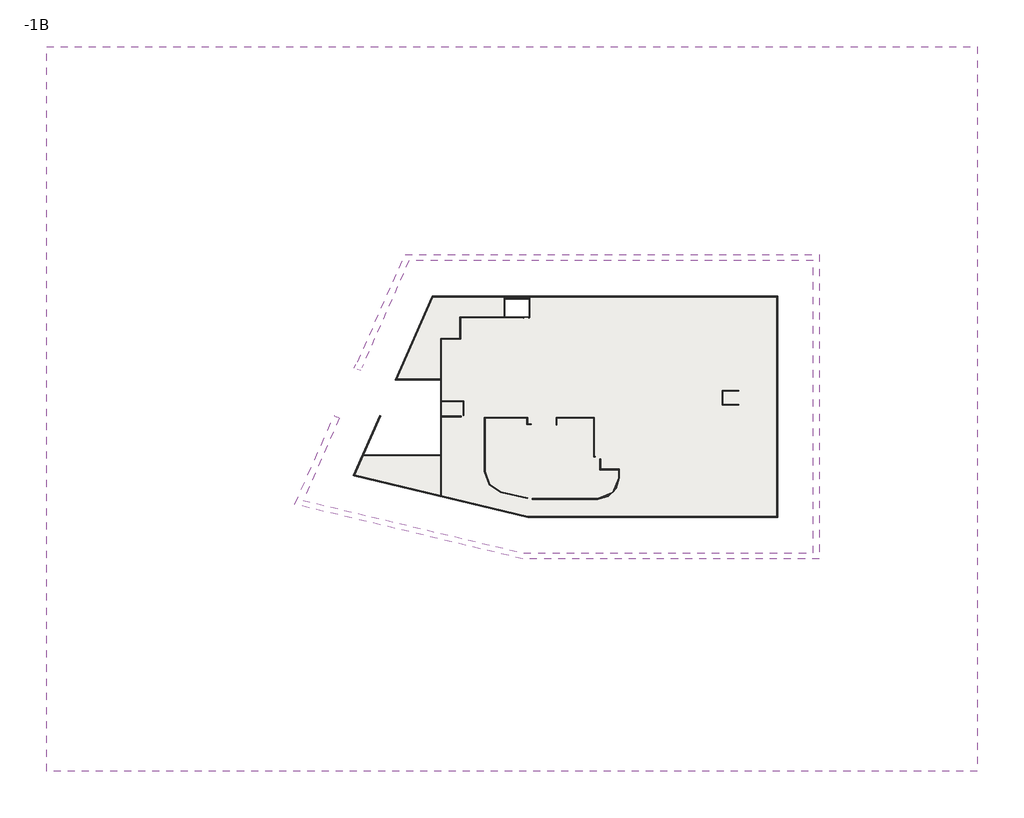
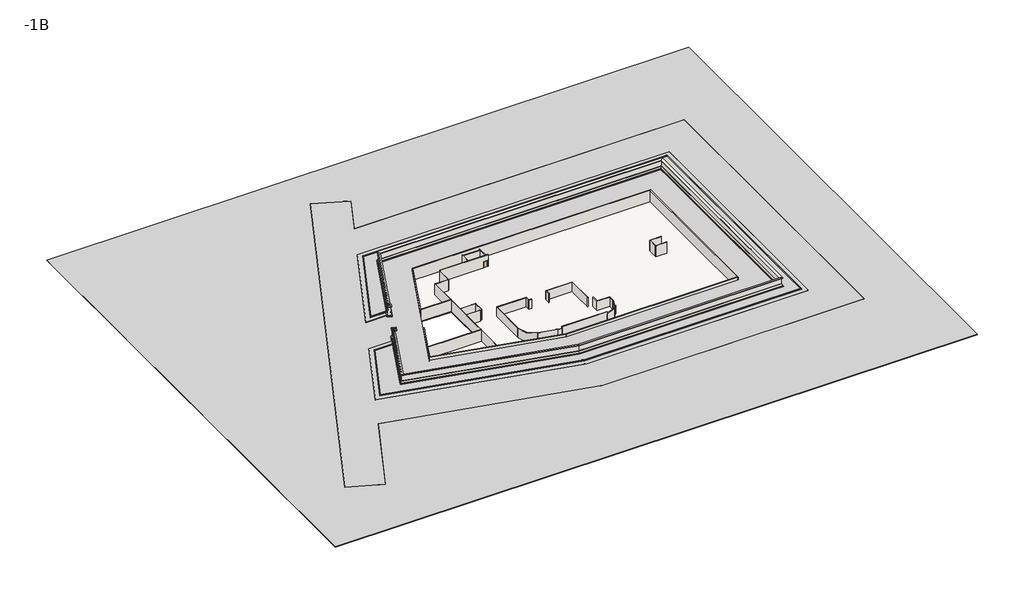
# One storey: 38 walls, 1 door, 1 geographic element, 1 slab.
"""IFC4 building model written with IfcOpenShell, lengths in millimetres."""

from ifc_helpers import new_model, si_unit, point, frame, frame_2d, origin, place, context, project, spatial, polyline, circle_curve, trimmed, segment, composite_curve, outline, extrude, faceted_brep, transform, mapped, element, save
from components import m_single_flush_d_1200x2150_ee7a6381, road_road_67be75eb, boundary_wall_boundary_wall_bb9a8aa2

model = new_model("IFC4")

# Units and contexts
model_context = context("Model", 3, world=origin())
ifc_project = project(units=[si_unit("LENGTHUNIT", "METRE", prefix="MILLI")], contexts=[model_context])

# Site, building, storey
site = spatial("IfcSite", under=ifc_project)
building = spatial("IfcBuilding", under=site)
storey = spatial("IfcBuildingStorey", under=building, Name="-1B", Elevation=-3300.0)

# Door
placement = place(None, origin())
m_single_flush_d_1200x2150_shape = m_single_flush_d_1200x2150_ee7a6381(model_context)
element("IfcDoor", 1, ObjectType="M_Single-Flush : D-1200x2150", at=placement, inside=storey, context=model_context, shape_type="MappedRepresentation", body=[
    mapped(m_single_flush_d_1200x2150_shape, transform((-15617.5865899, 16423.3851347, -3300.0), x_axis=(1.0, 0.0, 0.0), y_axis=(0.0, 1.0, 0.0), z_axis=(0.0, 0.0, 1.0))),
])

# Geographic element
road_road_shape = road_road_67be75eb(model_context)
element("IfcGeographicElement", 2, ObjectType="Road : Road", at=placement, inside=storey, context=model_context, shape_type="MappedRepresentation", body=[
    mapped(road_road_shape, transform((0.0, 0.0, 0.0), x_axis=(1.0, 0.0, 0.0), y_axis=(0.0, 1.0, 0.0), z_axis=(0.0, 0.0, 1.0))),
])

# Slab
element("IfcSlab", 3, ObjectType="basement floor", at=placement, inside=storey, context=model_context, shape_type="SweptSolid", body=[
    extrude(outline(polyline([(-53829.3970214, -15610.6148653), (-35549.5865899, -15610.6148653), (-35549.5865899, 1882.3851347), (-46126.2859605, 1882.3851347), (-37532.7792805, 21397.3851347), (42962.4134101, 21397.3851347), (42962.4134101, -30202.6148653), (-15259.5328249, -30202.6148653), (-55959.4597108, -20447.7756347), (-53829.3970214, -15610.6148653)]), holes=[polyline([(-14914.5865899, 20652.3851347), (-20637.5865899, 20652.3851347), (-20637.5865899, 16494.3851347), (-14914.5865899, 16494.3851347), (-14914.5865899, 20652.3851347)])]), frame((0.0, 0.0, -3575.0), z_axis=(0.0, 0.0, 1.0), x_axis=(1.0, 0.0, 0.0)), (0.0, 0.0, 1.0), 275.0),
])

# Walls
boundary_wall_boundary_wall_shape = boundary_wall_boundary_wall_bb9a8aa2(model_context)
element("IfcWall", 4, ObjectType="Boundary Wall : Boundary Wall", at=placement, inside=storey, context=model_context, shape_type="MappedRepresentation", body=[
    mapped(boundary_wall_boundary_wall_shape, transform((0.0, 0.0, 0.0), x_axis=(1.0, 0.0, 0.0), y_axis=(0.0, 1.0, 0.0), z_axis=(0.0, 0.0, 1.0))),
])
element("IfcWall", 5, ObjectType="Retaining - 230mm Concrete", at=placement, inside=storey, context=model_context, shape_type="Brep", body=[
    faceted_brep([(42962.4134101, 21397.3851347, -3300.0), (-37532.7792805, 21397.3851347, -3300.0), (-37532.7792805, 21397.3851347, 900.0), (42962.4134101, 21397.3851347, 900.0), (42962.4134101, 21167.3851347, -3300.0), (42962.4134101, 21167.3851347, 900.0), (42732.4134101, 21167.3851347, 900.0), (-37382.7482818, 21167.3851347, 900.0), (-37634.0606813, 21167.3851347, 900.0), (-37634.0606813, 21167.3851347, -3300.0), (-37382.7482818, 21167.3851347, -3300.0), (-20782.5865899, 21167.3851347, -3300.0), (-20640.5865899, 21167.3851347, -3300.0), (-14917.5865899, 21167.3851347, -3300.0), (-14775.5865899, 21167.3851347, -3300.0), (42732.4134101, 21167.3851347, -3300.0)], [[[0, 1, 2, 3]], [[4, 5, 6, 7, 8, 9, 10, 11, 12, 13, 14, 15]], [[1, 0, 4, 15, 14, 13, 12, 11, 10, 9]], [[3, 2, 8, 7, 6, 5]], [[0, 3, 5, 4]], [[2, 1, 9, 8]]]),
])
element("IfcWall", 6, ObjectType="Retaining - 230mm Concrete", at=placement, inside=storey, context=model_context, shape_type="Brep", body=[
    faceted_brep([(42962.4134101, -30202.6148653, -3300.0), (42962.4134101, 21167.3851347, -3300.0), (42962.4134101, 21167.3851347, 900.0), (42962.4134101, -30202.6148653, 900.0), (42732.4134101, -30202.6148653, -3300.0), (42732.4134101, -30202.6148653, 900.0), (42732.4134101, -29972.6148653, 900.0), (42732.4134101, 21167.3851347, 900.0), (42732.4134101, 21167.3851347, -3300.0), (42732.4134101, -29972.6148653, -3300.0)], [[[0, 1, 2, 3]], [[4, 5, 6, 7, 8, 9]], [[1, 0, 4, 9, 8]], [[3, 2, 7, 6, 5]], [[0, 3, 5, 4]], [[2, 1, 8, 7]]]),
])
element("IfcWall", 7, ObjectType="Retaining - 230mm Concrete", at=placement, inside=storey, context=model_context, shape_type="SweptSolid", body=[
    extrude(outline(polyline([(42732.4134101, -30202.6148653), (-15259.5328249, -30202.6148653), (-15232.3907639, -29972.6148653), (42732.4134101, -29972.6148653), (42732.4134101, -30202.6148653)])), frame((0.0, 0.0, -3300.0), z_axis=(0.0, 0.0, 1.0), x_axis=(1.0, 0.0, 0.0)), (0.0, 0.0, 1.0), 4200.0),
])
element("IfcWall", 8, ObjectType="Retaining - 230mm Concrete", at=placement, inside=storey, context=model_context, shape_type="Brep", body=[
    faceted_brep([(-37634.0606813, 21167.3851347, -3300.0), (-46126.2859605, 1882.3851347, -3300.0), (-46126.2859605, 1882.3851347, 900.0), (-37634.0606813, 21167.3851347, 900.0), (-37382.7482818, 21167.3851347, -3300.0), (-37382.7482818, 21167.3851347, 900.0), (-45812.4433048, 2024.3851347, 900.0), (-45874.973561, 1882.3851347, 900.0), (-45874.973561, 1882.3851347, -3300.0), (-45812.4433048, 2024.3851347, -3300.0)], [[[0, 1, 2, 3]], [[4, 5, 6, 7, 8, 9]], [[1, 0, 4, 9, 8]], [[3, 2, 7, 6, 5]], [[2, 1, 8, 7]], [[0, 3, 5, 4]]]),
])
element("IfcWall", 9, ObjectType="Retaining - 230mm Concrete", at=placement, inside=storey, context=model_context, shape_type="Brep", body=[
    faceted_brep([(-55737.3714957, -20514.1974958, -3300.0), (-15259.5328249, -30202.6148653, -3300.0), (-15259.5328249, -30202.6148653, 900.0), (-55737.3714957, -20514.1974958, 900.0), (-55643.2141859, -20300.2376728, -3300.0), (-55643.2141859, -20300.2376728, 900.0), (-15232.3907639, -29972.6148653, 900.0), (-15232.3907639, -29972.6148653, -3300.0), (-35407.5865899, -25143.658476, -3300.0), (-35549.5865899, -25109.6706122, -3300.0)], [[[0, 1, 2, 3]], [[4, 5, 6, 7, 8, 9]], [[1, 0, 4, 9, 8, 7]], [[3, 2, 6, 5]], [[2, 1, 7, 6]], [[0, 3, 5, 4]]]),
])
element("IfcWall", 10, ObjectType="Retaining - 230mm Concrete", at=placement, inside=storey, context=model_context, shape_type="Brep", body=[
    faceted_brep([(-49786.7669683, -6421.2351655, -3300.0), (-55964.7115703, -20459.7833867, -3300.0), (-55964.7115703, -20459.7833867, 900.0), (-49786.7669683, -6421.2351655, 900.0), (-49576.2499473, -6513.8774012, -3300.0), (-49576.2499473, -6513.8774012, 900.0), (-53579.4516478, -15610.6148653, 900.0), (-53641.9415947, -15752.6148653, 900.0), (-55643.2141859, -20300.2376728, 900.0), (-55737.3714957, -20514.1974958, 900.0), (-55737.3714957, -20514.1974958, -3300.0), (-55643.2141859, -20300.2376728, -3300.0), (-53641.9415947, -15752.6148653, -3300.0), (-53579.4516478, -15610.6148653, -3300.0)], [[[0, 1, 2, 3]], [[4, 5, 6, 7, 8, 9, 10, 11, 12, 13]], [[1, 0, 4, 13, 12, 11, 10]], [[3, 2, 9, 8, 7, 6, 5]], [[0, 3, 5, 4]], [[2, 1, 10, 9]]]),
])
element("IfcWall", 11, ObjectType="wall-115", at=placement, inside=storey, context=model_context, shape_type="Brep", body=[
    faceted_brep([(-31064.5865899, 16494.3851347, -3300.0), (-31064.5865899, 11524.3851347, -3300.0), (-31064.5865899, 11382.3851347, -3300.0), (-31064.5865899, 11382.3851347, 625.0), (-31064.5865899, 11524.3851347, 625.0), (-31064.5865899, 16494.3851347, 625.0), (-30922.5865899, 16494.3851347, -3300.0), (-30922.5865899, 16494.3851347, 625.0), (-30922.5865899, 11382.3851347, 625.0), (-30922.5865899, 11382.3851347, -3300.0), (-30922.5865899, 16352.3851347, -3300.0)], [[[0, 1, 2, 3, 4, 5]], [[6, 7, 8, 9, 10]], [[2, 1, 0, 6, 10, 9]], [[0, 5, 7, 6]], [[3, 2, 9, 8]], [[5, 4, 3, 8, 7]]]),
])
element("IfcWall", 12, ObjectType="wall-115", at=placement, inside=storey, context=model_context, shape_type="Brep", body=[
    faceted_brep([(-35549.5865899, 11524.3851347, -3300.0), (-35549.5865899, 2024.3851347, -3300.0), (-35549.5865899, 1882.3851347, -3300.0), (-35549.5865899, -15610.6148653, -3300.0), (-35549.5865899, -15752.6148653, -3300.0), (-35549.5865899, -25109.6706122, -3300.0), (-35549.5865899, -25109.6706122, 600.0), (-35549.5865899, -21112.6148653, 600.0), (-35549.5865899, -21112.6148653, 625.0), (-35549.5865899, -6487.6148653, 625.0), (-35549.5865899, -6487.6148653, 600.0), (-35549.5865899, 1882.3851347, 600.0), (-35549.5865899, 1882.3851347, 625.0), (-35549.5865899, 11524.3851347, 625.0), (-35407.5865899, 11524.3851347, -3300.0), (-35407.5865899, 11524.3851347, 625.0), (-35407.5865899, 11382.3851347, 625.0), (-35407.5865899, 1882.3851347, 625.0), (-35407.5865899, 1882.3851347, 600.0), (-35407.5865899, -3010.6148653, 600.0), (-35407.5865899, -3152.6148653, 600.0), (-35407.5865899, -6487.6148653, 600.0), (-35407.5865899, -6487.6148653, 625.0), (-35407.5865899, -6610.6148653, 625.0), (-35407.5865899, -6752.6148653, 625.0), (-35407.5865899, -21112.6148653, 625.0), (-35407.5865899, -21112.6148653, 600.0), (-35407.5865899, -25143.658476, 600.0), (-35407.5865899, -25143.658476, -3300.0), (-35407.5865899, -6752.6148653, -3300.0), (-35407.5865899, -6610.6148653, -3300.0), (-35407.5865899, -3152.6148653, -3300.0), (-35407.5865899, -3010.6148653, -3300.0), (-35407.5865899, 11382.3851347, -3300.0)], [[[0, 1, 2, 3, 4, 5, 6, 7, 8, 9, 10, 11, 12, 13]], [[14, 15, 16, 17, 18, 19, 20, 21, 22, 23, 24, 25, 26, 27, 28, 29, 30, 31, 32, 33]], [[5, 4, 3, 2, 1, 0, 14, 33, 32, 31, 30, 29, 28]], [[0, 13, 15, 14]], [[6, 5, 28, 27]], [[17, 12, 11, 18]], [[9, 22, 21, 10]], [[25, 8, 7, 26]], [[13, 12, 17, 16, 15]], [[9, 8, 25, 24, 23, 22]], [[11, 10, 21, 20, 19, 18]], [[7, 6, 27, 26]]]),
])
element("IfcWall", 13, ObjectType="wall-115", at=placement, inside=storey, context=model_context, shape_type="SweptSolid", body=[
    extrude(outline(polyline([(-35407.5865899, -6610.6148653), (-30737.5865899, -6610.6148653), (-30737.5865899, -6752.6148653), (-35407.5865899, -6752.6148653), (-35407.5865899, -6610.6148653)])), frame((0.0, 0.0, -3300.0), z_axis=(0.0, 0.0, 1.0), x_axis=(1.0, 0.0, 0.0)), (0.0, 0.0, 1.0), 3925.0),
])
element("IfcWall", 14, ObjectType="wall-115", at=placement, inside=storey, context=model_context, shape_type="Brep", body=[
    faceted_brep([(-30125.5865899, -3010.6148653, -3300.0), (-35407.5865899, -3010.6148653, -3300.0), (-35407.5865899, -3010.6148653, 600.0), (-31352.5865898, -3010.6148653, 600.0), (-31352.5865898, -3010.6148653, 625.0), (-30125.5865899, -3010.6148653, 625.0), (-30125.5865899, -3152.6148653, -3300.0), (-30125.5865899, -3152.6148653, 625.0), (-30267.5865899, -3152.6148653, 625.0), (-31352.5865898, -3152.6148653, 625.0), (-31352.5865898, -3152.6148653, 600.0), (-35407.5865899, -3152.6148653, 600.0), (-35407.5865899, -3152.6148653, -3300.0), (-30267.5865899, -3152.6148653, -3300.0)], [[[0, 1, 2, 3, 4, 5]], [[6, 7, 8, 9, 10, 11, 12, 13]], [[1, 0, 6, 13, 12]], [[0, 5, 7, 6]], [[2, 1, 12, 11]], [[9, 4, 3, 10]], [[5, 4, 9, 8, 7]], [[3, 2, 11, 10]]]),
])
element("IfcWall", 15, ObjectType="wall-115", at=placement, inside=storey, context=model_context, shape_type="SweptSolid", body=[
    extrude(outline(polyline([(-30125.5865899, -3152.6148653), (-30125.5865899, -6472.6148653), (-30267.5865899, -6472.6148653), (-30267.5865899, -3152.6148653), (-30125.5865899, -3152.6148653)])), frame((0.0, 0.0, -3300.0), z_axis=(0.0, 0.0, 1.0), x_axis=(1.0, 0.0, 0.0)), (0.0, 0.0, 1.0), 3925.0),
])
element("IfcWall", 16, ObjectType="wall-115", at=placement, inside=storey, context=model_context, shape_type="Brep", body=[
    faceted_brep([(-14775.5865899, 16494.3851347, -3300.0), (-14917.5865899, 16494.3851347, -3300.0), (-15017.5865899, 16494.3851347, -3300.0), (-15017.5865899, 16494.3851347, -1150.0), (-16217.5865899, 16494.3851347, -1150.0), (-16217.5865899, 16494.3851347, -3300.0), (-20640.5865899, 16494.3851347, -3300.0), (-20782.5865899, 16494.3851347, -3300.0), (-30922.5865899, 16494.3851347, -3300.0), (-30922.5865899, 16494.3851347, 625.0), (-30922.5865899, 16494.3851347, 900.0), (-14775.5865899, 16494.3851347, 900.0), (-14775.5865899, 16494.3851347, 0.0), (-15017.5865899, 16352.3851347, -1150.0), (-15017.5865899, 16352.3851347, -3300.0), (-14775.5865899, 16352.3851347, -3300.0), (-14775.5865899, 16352.3851347, 900.0), (-30922.5865899, 16352.3851347, 900.0), (-30922.5865899, 16352.3851347, -3300.0), (-16217.5865899, 16352.3851347, -3300.0), (-16217.5865899, 16352.3851347, -1150.0)], [[[0, 1, 2, 3, 4, 5, 6, 7, 8, 9, 10, 11, 12]], [[13, 14, 15, 16, 17, 18, 19, 20]], [[15, 14, 2, 1, 0]], [[19, 18, 8, 7, 6, 5]], [[11, 10, 17, 16]], [[0, 12, 11, 16, 15]], [[10, 9, 8, 18, 17]], [[3, 2, 14, 13]], [[4, 3, 13, 20]], [[5, 4, 20, 19]]]),
])
element("IfcWall", 17, ObjectType="wall-115", at=placement, inside=storey, context=model_context, shape_type="SweptSolid", body=[
    extrude(outline(polyline([(-35407.5865899, 11524.3851347), (-31064.5865899, 11524.3851347), (-31064.5865899, 11382.3851347), (-35407.5865899, 11382.3851347), (-35407.5865899, 11524.3851347)])), frame((0.0, 0.0, -3300.0), z_axis=(0.0, 0.0, 1.0), x_axis=(1.0, 0.0, 0.0)), (0.0, 0.0, 1.0), 3925.0),
])
element("IfcWall", 18, ObjectType="wall-115", at=placement, inside=storey, context=model_context, shape_type="Brep", body=[
    faceted_brep([(33947.4134101, -594.1148653, -3300.0), (30103.9134101, -594.1148653, -3300.0), (30103.9134101, -594.1148653, 625.0), (33947.4134101, -594.1148653, 625.0), (33947.4134101, -736.1148653, -3300.0), (33947.4134101, -736.1148653, 625.0), (30245.9134101, -736.1148653, 625.0), (30103.9134101, -736.1148653, 625.0), (30103.9134101, -736.1148653, -3300.0), (30245.9134101, -736.1148653, -3300.0)], [[[0, 1, 2, 3]], [[4, 5, 6, 7, 8, 9]], [[1, 0, 4, 9, 8]], [[0, 3, 5, 4]], [[2, 1, 8, 7]], [[3, 2, 7, 6, 5]]]),
])
element("IfcWall", 19, ObjectType="wall-115", at=placement, inside=storey, context=model_context, shape_type="Brep", body=[
    faceted_brep([(33947.4134101, -3839.1148653, -3300.0), (30245.9134101, -3839.1148653, -3300.0), (30103.9134101, -3839.1148653, -3300.0), (30103.9134101, -3839.1148653, 625.0), (30245.9134101, -3839.1148653, 625.0), (33947.4134101, -3839.1148653, 625.0), (33947.4134101, -3981.1148653, -3300.0), (33947.4134101, -3981.1148653, 625.0), (30103.9134101, -3981.1148653, 625.0), (30103.9134101, -3981.1148653, -3300.0)], [[[0, 1, 2, 3, 4, 5]], [[6, 7, 8, 9]], [[2, 1, 0, 6, 9]], [[0, 5, 7, 6]], [[3, 2, 9, 8]], [[5, 4, 3, 8, 7]]]),
])
element("IfcWall", 20, ObjectType="wall-115", at=placement, inside=storey, context=model_context, shape_type="SweptSolid", body=[
    extrude(outline(polyline([(30103.9134101, -3839.1148653), (30103.9134101, -736.1148653), (30245.9134101, -736.1148653), (30245.9134101, -3839.1148653), (30103.9134101, -3839.1148653)])), frame((0.0, 0.0, -3300.0), z_axis=(0.0, 0.0, 1.0), x_axis=(1.0, 0.0, 0.0)), (0.0, 0.0, 1.0), 3925.0),
])
element("IfcWall", 21, ObjectType="wall-115", at=placement, inside=storey, context=model_context, shape_type="Brep", body=[
    faceted_brep([(-14170.3101164, -25984.6148653, -3300.0), (1027.4134101, -25984.6148653, -3300.0), (1027.4134101, -25984.6148653, 0.0), (1027.4134101, -25984.6148653, 625.0), (-14170.3101164, -25984.6148653, 625.0), (-14170.3101164, -25984.6148653, 0.0), (-14170.3101164, -25842.6148653, -3300.0), (-14170.3101164, -25842.6148653, 0.0), (-14170.3101164, -25842.6148653, 625.0), (1027.4134101, -25842.6148653, 625.0), (1027.4134101, -25842.6148653, 0.0), (1027.4134101, -25842.6148653, -3300.0)], [[[0, 1, 2, 3, 4, 5]], [[6, 7, 8, 9, 10, 11]], [[1, 0, 6, 11]], [[3, 2, 1, 11, 10, 9]], [[4, 3, 9, 8]], [[0, 5, 4, 8, 7, 6]]]),
])
element("IfcWall", 22, ObjectType="wall-115", at=placement, inside=storey, context=model_context, shape_type="SweptSolid", body=[
    extrude(outline(composite_curve([segment(polyline([(5897.4134101, -20972.6148653), (6039.4134101, -20972.6148653)]), True, "CONTINUOUS"), segment(trimmed(circle_curve(frame_2d((1027.4134101, -20972.6148653)), 5012.0), [point((6039.4134101, -20972.6148653))], [point((1027.4134101, -25984.6148653))], False, "CARTESIAN"), True, "CONTINUOUS"), segment(polyline([(1027.4134101, -25984.6148653), (1027.4134101, -25842.6148653)]), True, "CONTINUOUS"), segment(trimmed(circle_curve(frame_2d((1027.4134101, -20972.6148653)), 4870.0), [point((1027.4134101, -25842.6148653))], [point((5897.4134101, -20972.6148653))], True, "CARTESIAN"), True, "CONTINUOUS")], self_intersect=False)), frame((0.0, 0.0, -3300.0), z_axis=(0.0, 0.0, 1.0), x_axis=(1.0, 0.0, 0.0)), (0.0, 0.0, 1.0), 3300.0),
])
element("IfcWall", 23, ObjectType="wall-115", at=placement, inside=storey, context=model_context, shape_type="Brep", body=[
    faceted_brep([(6039.4134101, -20972.6148653, -3300.0), (6039.4134101, -18960.6148653, -3300.0), (6039.4134101, -18960.6148653, 0.0), (6039.4134101, -20972.6148653, 0.0), (5897.4134101, -20972.6148653, -3300.0), (5897.4134101, -20972.6148653, 0.0), (5897.4134101, -19102.6148653, 0.0), (5897.4134101, -18960.6148653, 0.0), (5897.4134101, -18960.6148653, -3300.0), (5897.4134101, -19102.6148653, -3300.0)], [[[0, 1, 2, 3]], [[4, 5, 6, 7, 8, 9]], [[1, 0, 4, 9, 8]], [[3, 2, 7, 6, 5]], [[0, 3, 5, 4]], [[2, 1, 8, 7]]]),
])
element("IfcWall", 24, ObjectType="wall-115", at=placement, inside=storey, context=model_context, shape_type="Brep", body=[
    faceted_brep([(5897.4134101, -18960.6148653, -3300.0), (1709.4134101, -18960.6148653, -3300.0), (1567.4134101, -18960.6148653, -3300.0), (1567.4134101, -18960.6148653, 0.0), (1709.4134101, -18960.6148653, 0.0), (5897.4134101, -18960.6148653, 0.0), (5897.4134101, -19102.6148653, -3300.0), (5897.4134101, -19102.6148653, 0.0), (1567.4134101, -19102.6148653, 0.0), (1567.4134101, -19102.6148653, -3300.0)], [[[0, 1, 2, 3, 4, 5]], [[6, 7, 8, 9]], [[2, 1, 0, 6, 9]], [[5, 4, 3, 8, 7]], [[3, 2, 9, 8]], [[0, 5, 7, 6]]]),
])
element("IfcWall", 25, ObjectType="wall-115", at=placement, inside=storey, context=model_context, shape_type="SweptSolid", body=[
    extrude(outline(polyline([(1709.4134101, -16572.6148653), (1709.4134101, -18960.6148653), (1567.4134101, -18960.6148653), (1567.4134101, -16572.6148653), (1709.4134101, -16572.6148653)])), frame((0.0, 0.0, -3300.0), z_axis=(0.0, 0.0, 1.0), x_axis=(1.0, 0.0, 0.0)), (0.0, 0.0, 1.0), 3300.0),
])
element("IfcWall", 26, ObjectType="wall-115", at=placement, inside=storey, context=model_context, shape_type="Brep", body=[
    faceted_brep([(239.4134101, -15960.6148653, -3300.0), (239.4134101, -6942.6148653, -3300.0), (239.4134101, -6942.6148653, 0.0), (239.4134101, -15960.6148653, 0.0), (97.4134101, -15960.6148653, -3300.0), (97.4134101, -15960.6148653, 0.0), (97.4134101, -7084.6148653, 0.0), (97.4134101, -6942.6148653, 0.0), (97.4134101, -6942.6148653, -3300.0), (97.4134101, -7084.6148653, -3300.0)], [[[0, 1, 2, 3]], [[4, 5, 6, 7, 8, 9]], [[1, 0, 4, 9, 8]], [[3, 2, 7, 6, 5]], [[2, 1, 8, 7]], [[0, 3, 5, 4]]]),
])
element("IfcWall", 27, ObjectType="wall-115", at=placement, inside=storey, context=model_context, shape_type="Brep", body=[
    faceted_brep([(422.4134101, -15960.6148653, -3300.0), (239.4134101, -15960.6148653, -3300.0), (97.4134101, -15960.6148653, -3300.0), (97.4134101, -15960.6148653, 0.0), (239.4134101, -15960.6148653, 0.0), (422.4134101, -15960.6148653, 0.0), (422.4134101, -16102.6148653, -3300.0), (422.4134101, -16102.6148653, 0.0), (97.4134101, -16102.6148653, 0.0), (97.4134101, -16102.6148653, -3300.0)], [[[0, 1, 2, 3, 4, 5]], [[6, 7, 8, 9]], [[2, 1, 0, 6, 9]], [[5, 4, 3, 8, 7]], [[0, 5, 7, 6]], [[3, 2, 9, 8]]]),
])
element("IfcWall", 28, ObjectType="wall-115", at=placement, inside=storey, context=model_context, shape_type="Brep", body=[
    faceted_brep([(-25349.5865899, -6942.6148653, -3300.0), (-25349.5865899, -19496.4701285, -3300.0), (-25349.5865899, -19496.4701285, 0.0), (-25349.5865899, -6942.6148653, 0.0), (-25207.5865899, -6942.6148653, -3300.0), (-25207.5865899, -6942.6148653, 0.0), (-25207.5865899, -7084.6148653, 0.0), (-25207.5865899, -19496.4701285, 0.0), (-25207.5865899, -19496.4701285, -3300.0), (-25207.5865899, -7084.6148653, -3300.0)], [[[0, 1, 2, 3]], [[4, 5, 6, 7, 8, 9]], [[1, 0, 4, 9, 8]], [[2, 1, 8, 7]], [[3, 2, 7, 6, 5]], [[0, 3, 5, 4]]]),
])
element("IfcWall", 29, ObjectType="wall-115", at=placement, inside=storey, context=model_context, shape_type="SweptSolid", body=[
    extrude(outline(polyline([(-15336.9846956, -25846.9368105), (-21504.2611691, -24370.7920738), (-21471.2069412, -24232.6927689), (-15303.9304677, -25708.8375056), (-15336.9846956, -25846.9368105)])), frame((0.0, 0.0, -3300.0), z_axis=(0.0, 0.0, 1.0), x_axis=(1.0, 0.0, 0.0)), (0.0, 0.0, 1.0), 3300.0),
])
element("IfcWall", 30, ObjectType="wall-115", at=placement, inside=storey, context=model_context, shape_type="SweptSolid", body=[
    extrude(outline(composite_curve([segment(polyline([(-14170.3101164, -25842.6148653), (-14170.3101164, -25984.6148653)]), True, "CONTINUOUS"), segment(trimmed(circle_curve(frame_2d((-14170.3101164, -20972.6148653)), 5012.0), [point((-14170.3101164, -25984.6148653))], [point((-15336.9846956, -25846.9368105))], False, "CARTESIAN"), True, "CONTINUOUS"), segment(polyline([(-15336.9846956, -25846.9368105), (-15303.9304677, -25708.8375056)]), True, "CONTINUOUS"), segment(trimmed(circle_curve(frame_2d((-14170.3101164, -20972.6148653)), 4870.0), [point((-15303.9304677, -25708.8375056))], [point((-14170.3101164, -25842.6148653))], True, "CARTESIAN"), True, "CONTINUOUS")], self_intersect=False)), frame((0.0, 0.0, -3300.0), z_axis=(0.0, 0.0, 1.0), x_axis=(1.0, 0.0, 0.0)), (0.0, 0.0, 1.0), 3300.0),
])
element("IfcWall", 31, ObjectType="wall-115", at=placement, inside=storey, context=model_context, shape_type="SweptSolid", body=[
    extrude(outline(composite_curve([segment(polyline([(-21471.2069412, -24232.6927689), (-21504.2611691, -24370.7920738)]), True, "CONTINUOUS"), segment(trimmed(circle_curve(frame_2d((-20337.5865899, -19496.4701285)), 5012.0), [point((-21504.2611691, -24370.7920738))], [point((-25349.5865899, -19496.4701285))], False, "CARTESIAN"), True, "CONTINUOUS"), segment(polyline([(-25349.5865899, -19496.4701285), (-25207.5865899, -19496.4701285)]), True, "CONTINUOUS"), segment(trimmed(circle_curve(frame_2d((-20337.5865899, -19496.4701285)), 4870.0), [point((-25207.5865899, -19496.4701285))], [point((-21471.2069412, -24232.6927689))], True, "CARTESIAN"), True, "CONTINUOUS")], self_intersect=False)), frame((0.0, 0.0, -3300.0), z_axis=(0.0, 0.0, 1.0), x_axis=(1.0, 0.0, 0.0)), (0.0, 0.0, 1.0), 3300.0),
])
element("IfcWall", 32, ObjectType="wall-115", at=placement, inside=storey, context=model_context, shape_type="Brep", body=[
    faceted_brep([(-25207.5865899, -7084.6148653, -3300.0), (-15449.5865899, -7084.6148653, -3300.0), (-15307.5865899, -7084.6148653, -3300.0), (-15307.5865899, -7084.6148653, 0.0), (-15449.5865899, -7084.6148653, 0.0), (-25207.5865899, -7084.6148653, 0.0), (-25207.5865899, -6942.6148653, -3300.0), (-25207.5865899, -6942.6148653, 0.0), (-15307.5865899, -6942.6148653, 0.0), (-15307.5865899, -6942.6148653, -3300.0)], [[[0, 1, 2, 3, 4, 5]], [[6, 7, 8, 9]], [[2, 1, 0, 6, 9]], [[5, 4, 3, 8, 7]], [[3, 2, 9, 8]], [[0, 5, 7, 6]]]),
])
element("IfcWall", 33, ObjectType="wall-115", at=placement, inside=storey, context=model_context, shape_type="Brep", body=[
    faceted_brep([(-14412.5865899, -8400.6148653, -3300.0), (-15307.5865899, -8400.6148653, -3300.0), (-15449.5865899, -8400.6148653, -3300.0), (-15449.5865899, -8400.6148653, 0.0), (-15307.5865899, -8400.6148653, 0.0), (-14412.5865899, -8400.6148653, 0.0), (-14412.5865899, -8542.6148653, -3300.0), (-14412.5865899, -8542.6148653, 0.0), (-15449.5865899, -8542.6148653, 0.0), (-15449.5865899, -8542.6148653, -3300.0)], [[[0, 1, 2, 3, 4, 5]], [[6, 7, 8, 9]], [[2, 1, 0, 6, 9]], [[5, 4, 3, 8, 7]], [[3, 2, 9, 8]], [[0, 5, 7, 6]]]),
])
element("IfcWall", 34, ObjectType="wall-115", at=placement, inside=storey, context=model_context, shape_type="SweptSolid", body=[
    extrude(outline(polyline([(-15449.5865899, -8400.6148653), (-15449.5865899, -7084.6148653), (-15307.5865899, -7084.6148653), (-15307.5865899, -8400.6148653), (-15449.5865899, -8400.6148653)])), frame((0.0, 0.0, -3300.0), z_axis=(0.0, 0.0, 1.0), x_axis=(1.0, 0.0, 0.0)), (0.0, 0.0, 1.0), 3300.0),
])
element("IfcWall", 35, ObjectType="wall-115", at=placement, inside=storey, context=model_context, shape_type="Brep", body=[
    faceted_brep([(-8637.5865899, -7084.6148653, -3300.0), (-8495.5865899, -7084.6148653, -3300.0), (97.4134101, -7084.6148653, -3300.0), (97.4134101, -7084.6148653, 0.0), (-8495.5865899, -7084.6148653, 0.0), (-8637.5865899, -7084.6148653, 0.0), (-8637.5865899, -6942.6148653, -3300.0), (-8637.5865899, -6942.6148653, 0.0), (97.4134101, -6942.6148653, 0.0), (97.4134101, -6942.6148653, -3300.0)], [[[0, 1, 2, 3, 4, 5]], [[6, 7, 8, 9]], [[2, 1, 0, 6, 9]], [[5, 4, 3, 8, 7]], [[0, 5, 7, 6]], [[3, 2, 9, 8]]]),
])
element("IfcWall", 36, ObjectType="wall-115", at=placement, inside=storey, context=model_context, shape_type="Brep", body=[
    faceted_brep([(-8495.5865899, -8654.6148653, -3300.0), (-8495.5865899, -7084.6148653, -3300.0), (-8495.5865899, -7084.6148653, 0.0), (-8495.5865899, -8654.6148653, 0.0), (-8637.5865899, -8654.6148653, -3300.0), (-8637.5865899, -8654.6148653, 0.0), (-8637.5865899, -8397.6148653, 0.0), (-8637.5865899, -7084.6148653, 0.0), (-8637.5865899, -7084.6148653, -3300.0), (-8637.5865899, -8397.6148653, -3300.0)], [[[0, 1, 2, 3]], [[4, 5, 6, 7, 8, 9]], [[1, 0, 4, 9, 8]], [[3, 2, 7, 6, 5]], [[0, 3, 5, 4]], [[2, 1, 8, 7]]]),
])
element("IfcWall", 37, ObjectType="wall-115", at=placement, inside=storey, context=model_context, shape_type="Brep", body=[
    faceted_brep([(-35549.5865899, 2024.3851347, -3300.0), (-45812.4433048, 2024.3851347, -3300.0), (-45812.4433048, 2024.3851347, 900.0), (-35549.5865899, 2024.3851347, 900.0), (-45874.973561, 1882.3851347, -3300.0), (-35549.5865899, 1882.3851347, -3300.0), (-35549.5865899, 1882.3851347, 600.0), (-35549.5865899, 1882.3851347, 625.0), (-35549.5865899, 1882.3851347, 900.0), (-45874.973561, 1882.3851347, 900.0)], [[[0, 1, 2, 3]], [[4, 5, 6, 7, 8, 9]], [[1, 0, 5, 4]], [[3, 2, 9, 8]], [[0, 3, 8, 7, 6, 5]], [[2, 1, 4, 9]]]),
])
element("IfcWall", 38, ObjectType="wall-115", at=placement, inside=storey, context=model_context, shape_type="SweptSolid", body=[
    extrude(outline(polyline([(-53579.4516478, -15610.6148653), (-35549.5865899, -15610.6148653), (-35549.5865899, -15752.6148653), (-53641.9415947, -15752.6148653), (-53579.4516478, -15610.6148653)])), frame((0.0, 0.0, -3300.0), z_axis=(0.0, 0.0, 1.0), x_axis=(1.0, 0.0, 0.0)), (0.0, 0.0, 1.0), 4200.0),
])
element("IfcWall", 39, ObjectType="wall-115", at=placement, inside=storey, context=model_context, shape_type="Brep", body=[
    faceted_brep([(-20640.5865899, 16494.3851347, -3300.0), (-20640.5865899, 20652.3851347, -3300.0), (-20640.5865899, 20794.3851347, -3300.0), (-20640.5865899, 21167.3851347, -3300.0), (-20640.5865899, 21167.3851347, 0.0), (-20640.5865899, 20794.3851347, 0.0), (-20640.5865899, 20652.3851347, 0.0), (-20640.5865899, 16494.3851347, 0.0), (-20782.5865899, 16494.3851347, -3300.0), (-20782.5865899, 16494.3851347, 0.0), (-20782.5865899, 21167.3851347, 0.0), (-20782.5865899, 21167.3851347, -3300.0)], [[[0, 1, 2, 3, 4, 5, 6, 7]], [[8, 9, 10, 11]], [[3, 2, 1, 0, 8, 11]], [[7, 6, 5, 4, 10, 9]], [[4, 3, 11, 10]], [[0, 7, 9, 8]]]),
])
element("IfcWall", 40, ObjectType="wall-115", at=placement, inside=storey, context=model_context, shape_type="Brep", body=[
    faceted_brep([(-14775.5865899, 16494.3851347, -3300.0), (-14775.5865899, 21167.3851347, -3300.0), (-14775.5865899, 21167.3851347, 0.0), (-14775.5865899, 16494.3851347, 0.0), (-14917.5865899, 16494.3851347, -3300.0), (-14917.5865899, 16494.3851347, 0.0), (-14917.5865899, 20652.3851347, 0.0), (-14917.5865899, 20794.3851347, 0.0), (-14917.5865899, 21167.3851347, 0.0), (-14917.5865899, 21167.3851347, -3300.0), (-14917.5865899, 20794.3851347, -3300.0), (-14917.5865899, 20652.3851347, -3300.0)], [[[0, 1, 2, 3]], [[4, 5, 6, 7, 8, 9, 10, 11]], [[1, 0, 4, 11, 10, 9]], [[3, 2, 8, 7, 6, 5]], [[2, 1, 9, 8]], [[0, 3, 5, 4]]]),
])
element("IfcWall", 41, ObjectType="wall-115", at=placement, inside=storey, context=model_context, shape_type="SweptSolid", body=[
    extrude(outline(polyline([(-14917.5865899, 20652.3851347), (-20640.5865899, 20652.3851347), (-20640.5865899, 20794.3851347), (-14917.5865899, 20794.3851347), (-14917.5865899, 20652.3851347)])), frame((0.0, 0.0, -3300.0), z_axis=(0.0, 0.0, 1.0), x_axis=(1.0, 0.0, 0.0)), (0.0, 0.0, 1.0), 3300.0),
])

save(model, "model.ifc")
